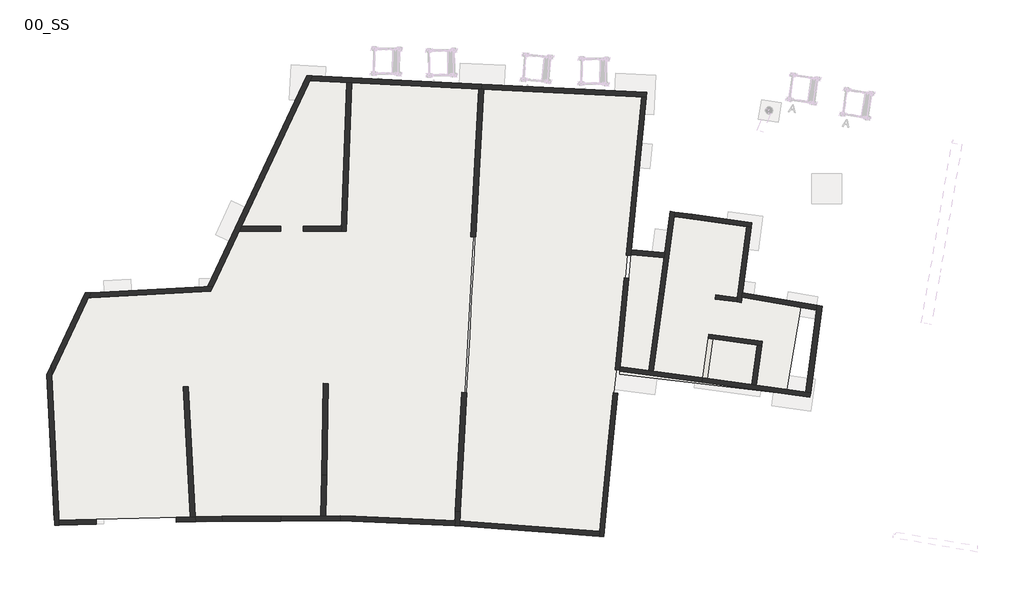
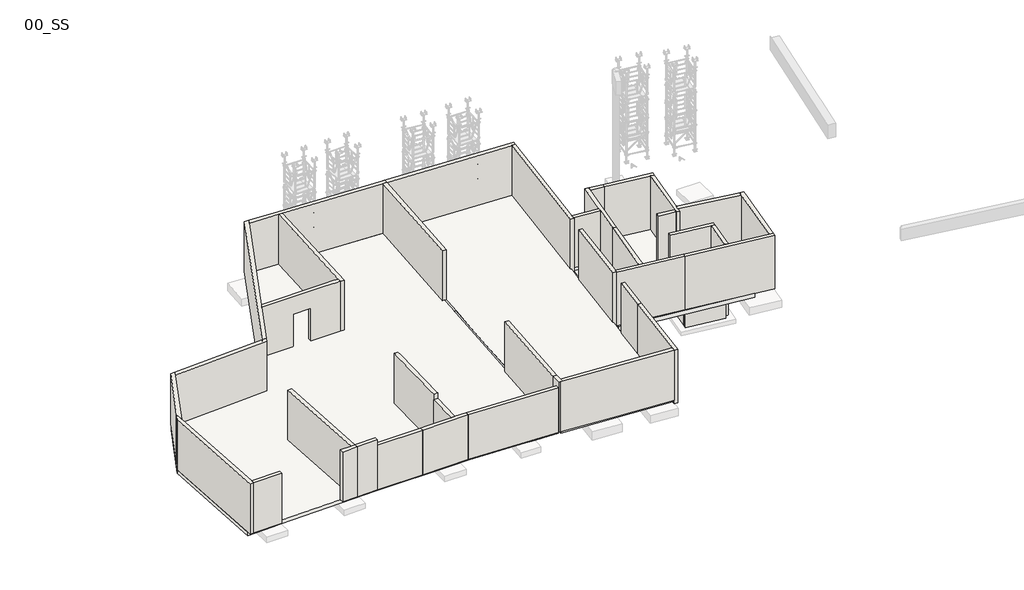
# One storey, part 1 of 4: 40 walls, 3 slabs.
"""IFC4 building model written with IfcOpenShell, lengths in millimetres."""

from ifc_helpers import new_model, si_unit, frame, origin, place, context, project, spatial, polyline, outline, extrude, faceted_brep, element, save

model = new_model("IFC4")

# Units and contexts
model_context = context("Model", 3, world=origin())
ifc_project = project(units=[si_unit("LENGTHUNIT", "METRE", prefix="MILLI")], contexts=[model_context])

# Site, building, storey
site = spatial("IfcSite", under=ifc_project)
building = spatial("IfcBuilding", under=site)
storey = spatial("IfcBuildingStorey", under=building, Name="00_SS", Elevation=18790.0)

# Slabs
placement = place(None, origin())
element("IfcSlab", 1, ObjectType="Dalle Béton - 20 cm", at=placement, inside=storey, context=model_context, shape_type="Brep", body=[
    faceted_brep([(-5672.0308886, -552.4064815, 18790.0), (-5841.8167558, -552.7778113, 18790.0), (-6522.6418252, -554.2668084, 18790.0), (-10539.0252115, -563.0508312, 18790.0), (-15638.0247058, -681.607683, 18790.0), (-15780.8485835, -684.9610185, 18790.0), (-15980.9454459, -689.6590559, 18790.0), (-17329.5895331, -721.3236223, 18790.0), (-17638.8270269, 5113.9845191, 18790.0), (-16179.2404082, 8195.1063742, 18790.0), (-12346.5079843, 8400.1067203, 18790.0), (-12146.793455, 8410.7887985, 18790.0), (-11030.9649878, 8470.4708208, 18790.0), (-7071.8244691, 16921.4398015, 18790.0), (-175.5431156, 16584.4902059, 18790.0), (-488.0212218, 10960.4246848, 18790.0), (-504.6637613, 10660.8877544, 18790.0), (-560.139158, 9662.4265515, 18790.0), (-867.3943889, 4132.363753, 18790.0), (-871.0176728, 4067.1509091, 18790.0), (-897.5693512, 3589.2666148, 18790.0), (-1138.5952504, -748.7827485, 18790.0), (-2492.2595701, -690.1456426, 18790.0), (-2807.1717646, -676.5044913, 18790.0), (-5672.0308886, -552.4064815, 18990.0), (-1138.5952504, -748.7827485, 18990.0), (-897.5693512, 3589.2666148, 18990.0), (-871.0176728, 4067.1509091, 18990.0), (-867.3943889, 4132.363753, 18990.0), (-560.139158, 9662.4265515, 18990.0), (-488.0212218, 10960.4246848, 18990.0), (-175.5431156, 16584.4902059, 18990.0), (-7071.8244691, 16921.4398015, 18990.0), (-11030.9649878, 8470.4708208, 18990.0), (-16179.2404082, 8195.1063742, 18990.0), (-17638.8270269, 5113.9845191, 18990.0), (-17329.5895331, -721.3236223, 18990.0), (-15638.0247058, -681.607683, 18990.0), (-10539.0252115, -563.0508312, 18990.0), (-6522.6418252, -554.2668084, 18990.0), (-5841.8167558, -552.7778113, 18990.0)], [[[0, 1, 2, 3, 4, 5, 6, 7, 8, 9, 10, 11, 12, 13, 14, 15, 16, 17, 18, 19, 20, 21, 22, 23]], [[24, 25, 26, 27, 28, 29, 30, 31, 32, 33, 34, 35, 36, 37, 38, 39, 40]], [[3, 2, 1, 0, 24, 40, 39, 38]], [[12, 11, 10, 9, 34, 33]], [[13, 12, 33, 32]], [[14, 13, 32, 31]], [[0, 23, 22, 21, 25, 24]], [[4, 3, 38, 37]], [[7, 6, 5, 4, 37, 36]], [[21, 20, 19, 18, 17, 16, 15, 14, 31, 30, 29, 28, 27, 26, 25]], [[8, 7, 36, 35]], [[9, 8, 35, 34]]]),
])
element("IfcSlab", 2, ObjectType="Dalle Béton - 20 cm", at=placement, inside=storey, context=model_context, shape_type="Brep", body=[
    faceted_brep([(-86.6149126, 16619.9125624, 18790.0), (6264.8089536, 16311.9173018, 18790.0), (6293.3502984, 16310.5332659, 18790.0), (5697.0231221, 10165.7705491, 18790.0), (5672.8722655, 9916.9117201, 18790.0), (5584.190578, 9003.1047551, 18790.0), (5225.3876192, 5305.8742222, 18790.0), (5222.7566161, 5278.7634508, 18790.0), (5222.7341448, 5278.5318987, 18790.0), (5136.7059317, 4392.0672572, 18790.0), (4626.1911294, -868.4548994, 18790.0), (4593.7649519, -1202.5855146, 18790.0), (4563.9952454, -1200.4381247, 18790.0), (4553.0136211, -1199.6459829, 18790.0), (1694.994376, -993.4873638, 18790.0), (-1057.7318571, -794.9238867, 18790.0), (-1055.4812273, -754.7337892, 18790.0), (-820.5359386, 3440.7470021, 18790.0), (-782.8980776, 4112.8563416, 18790.0), (-638.6403533, 6688.9050649, 18790.0), (-558.7857365, 8167.2410971, 18790.0), (-475.5278851, 9657.7001198, 18790.0), (-419.7542084, 10656.1450511, 18790.0), (-403.0222135, 10955.676594, 18790.0), (-86.6149126, 16619.9125624, 18990.0), (-403.0222135, 10955.676594, 18990.0), (-475.5278851, 9657.7001198, 18990.0), (-558.7857365, 8167.2410971, 18990.0), (-638.6403533, 6688.9050649, 18990.0), (-782.8980776, 4112.8563416, 18990.0), (-820.5359386, 3440.7470021, 18990.0), (-1055.4812273, -754.7337892, 18990.0), (-1057.7318571, -794.9238867, 18990.0), (1694.994376, -993.4873638, 18990.0), (4553.0136211, -1199.6459829, 18990.0), (4563.9952454, -1200.4381247, 18990.0), (4593.7649519, -1202.5855146, 18990.0), (4626.1911294, -868.4548994, 18990.0), (5136.7059317, 4392.0672572, 18990.0), (5222.7341448, 5278.5318987, 18990.0), (5222.7566161, 5278.7634508, 18990.0), (5225.3876192, 5305.8742222, 18990.0), (5584.190578, 9003.1047551, 18990.0), (5672.8722655, 9916.9117201, 18990.0), (5697.0231221, 10165.7705491, 18990.0), (6293.3502984, 16310.5332659, 18990.0), (6264.8089536, 16311.9173018, 18990.0)], [[[0, 1, 2, 3, 4, 5, 6, 7, 8, 9, 10, 11, 12, 13, 14, 15, 16, 17, 18, 19, 20, 21, 22, 23]], [[24, 25, 26, 27, 28, 29, 30, 31, 32, 33, 34, 35, 36, 37, 38, 39, 40, 41, 42, 43, 44, 45, 46]], [[2, 1, 0, 24, 46, 45]], [[10, 9, 8, 7, 6, 5, 4, 3, 2, 45, 44, 43, 42, 41, 40, 39, 38, 37]], [[11, 10, 37, 36]], [[15, 14, 13, 12, 11, 36, 35, 34, 33, 32]], [[19, 18, 17, 16, 15, 32, 31, 30, 29, 28]], [[20, 19, 28, 27]], [[0, 23, 22, 21, 20, 27, 26, 25, 24]]]),
])
element("IfcSlab", 3, ObjectType="Dalle Béton - 20 cm", at=placement, inside=storey, context=model_context, shape_type="Brep", body=[
    faceted_brep([(7347.1921117, 9833.9273444, 18590.0), (7402.6386996, 10236.9271126, 18590.0), (7570.7251909, 11458.6220734, 18590.0), (7602.4333388, 11454.3041708, 18590.0), (10443.6439656, 11067.3982322, 18590.0), (10483.838842, 11061.9246371, 18590.0), (10321.352792, 9880.9350948, 18590.0), (10225.9310796, 9187.3860522, 18590.0), (10102.1969994, 8288.0555876, 18590.0), (10310.4203579, 8252.6971075, 18590.0), (12645.7847462, 7856.1280773, 18590.0), (12639.2343232, 7817.5531422, 18590.0), (12081.1413089, 4530.9864867, 18590.0), (12050.9905985, 4353.431282, 18590.0), (12049.7917475, 4346.3713414, 18590.0), (5370.7858922, 5147.6674274, 18590.0), (5381.9879274, 5263.0970963, 18590.0), (5491.1098136, 6387.5269803, 18590.0), (5331.8579736, 6402.9818, 18590.0), (5505.1320116, 8174.5280477, 18590.0), (5665.1320116, 8174.5280477, 18590.0), (5842.9571071, 9981.9251134, 18590.0), (5946.0183786, 9971.785183, 18590.0), (7131.0522929, 9855.1927789, 18590.0), (7250.8369038, 9843.4074827, 18590.0), (7347.1921117, 9833.9273444, 18790.0), (7340.4693549, 9834.588779, 18790.0), (7250.8369038, 9843.4074827, 18790.0), (7161.2044527, 9852.2261864, 18790.0), (7131.0522929, 9855.1927789, 18790.0), (5946.0183786, 9971.785183, 18790.0), (5842.9571071, 9981.9251134, 18790.0), (5665.1320116, 8174.5280477, 18790.0), (5654.9755338, 8174.5280477, 18790.0), (5505.1320116, 8174.5280477, 18790.0), (5331.8579736, 6402.9818, 18790.0), (5481.5808953, 6388.4517276, 18790.0), (5491.1098136, 6387.5269803, 18790.0), (5399.1237293, 5439.6703611, 18790.0), (5381.9879274, 5263.0970963, 18790.0), (5370.7858922, 5147.6674274, 18790.0), (12049.7917475, 4346.3713414, 18790.0), (12050.9905985, 4353.431282, 18790.0), (12081.1413089, 4530.9864867, 18790.0), (12639.2343232, 7817.5531422, 18790.0), (12645.7847462, 7856.1280773, 18790.0), (10310.4203579, 8252.6971075, 18790.0), (10275.7132507, 8258.5907333, 18790.0), (10102.1969994, 8288.0555876, 18790.0), (10225.9310796, 9187.3860522, 18790.0), (10321.352792, 9880.9350948, 18790.0), (10483.838842, 11061.9246371, 18790.0), (10475.957724, 11062.9978597, 18790.0), (10443.6439656, 11067.3982322, 18790.0), (7602.4333388, 11454.3041708, 18790.0), (7570.7251909, 11458.6220734, 18790.0), (7402.6386996, 10236.9271126, 18790.0)], [[[0, 1, 2, 3, 4, 5, 6, 7, 8, 9, 10, 11, 12, 13, 14, 15, 16, 17, 18, 19, 20, 21, 22, 23, 24]], [[25, 26, 27, 28, 29, 30, 31, 32, 33, 34, 35, 36, 37, 38, 39, 40, 41, 42, 43, 44, 45, 46, 47, 48, 49, 50, 51, 52, 53, 54, 55, 56]], [[2, 1, 0, 25, 56, 55]], [[5, 4, 3, 2, 55, 54, 53, 52, 51]], [[8, 7, 6, 5, 51, 50, 49, 48]], [[10, 9, 8, 48, 47, 46, 45]], [[14, 13, 12, 11, 10, 45, 44, 43, 42, 41]], [[15, 14, 41, 40]], [[17, 16, 15, 40, 39, 38, 37]], [[18, 17, 37, 36, 35]], [[19, 18, 35, 34]], [[20, 19, 34, 33, 32]], [[21, 20, 32, 31]], [[0, 24, 23, 22, 21, 31, 30, 29, 28, 27, 26, 25]]]),
])

# Walls
element("IfcWall", 4, ObjectType="premur 20", at=placement, inside=storey, context=model_context, shape_type="Brep", body=[
    faceted_brep([(-17118.9691928, -916.433624, 18990.0), (-17129.5577792, -716.6271136, 18990.0), (-17436.4309501, 5074.066281, 18990.0), (-17458.6972156, 5494.2304677, 18990.0), (-17458.6972156, 5494.2304677, 21740.0), (-17436.4309501, 5074.066281, 21740.0), (-17129.5577792, -716.6271136, 21740.0), (-17118.9691928, -916.433624, 21740.0), (-17319.0009467, -921.1301327, 18990.0), (-17319.0009467, -921.1301327, 21740.0), (-17638.8270269, 5113.9845191, 21740.0), (-17638.8270269, 5113.9845191, 18990.0)], [[[0, 1, 2, 3, 4, 5, 6, 7]], [[8, 9, 10, 11]], [[3, 2, 1, 0, 8, 11]], [[7, 6, 5, 4, 10, 9]], [[4, 3, 11, 10]], [[0, 7, 9, 8]]]),
])
element("IfcWall", 5, ObjectType="Int. Parpaing 200 mm", at=placement, inside=storey, context=model_context, shape_type="Brep", body=[
    faceted_brep([(-5803.4508744, 10887.6283744, 21740.0), (-6021.1717674, 10887.6283744, 21740.0), (-6621.274048, 10887.6283744, 21740.0), (-9903.3407521, 10887.6283744, 21740.0), (-9903.3407521, 10887.6283744, 18790.0), (-8241.9847964, 10887.6283744, 18790.0), (-8241.9847964, 10887.6283744, 20790.0), (-7341.9847964, 10887.6283744, 20790.0), (-7341.9847964, 10887.6283744, 18790.0), (-5803.4508744, 10887.6283744, 18790.0), (-9809.4857712, 11087.6283744, 21740.0), (-6617.581005, 11087.6283744, 21740.0), (-6017.4787245, 11087.6283744, 21740.0), (-5796.0111481, 11087.6283744, 21740.0), (-5796.0111481, 11087.6283744, 18790.0), (-7341.9847964, 11087.6283744, 18790.0), (-7341.9847964, 11087.6283744, 20790.0), (-8241.9847964, 11087.6283744, 20790.0), (-8241.9847964, 11087.6283744, 18790.0), (-9809.4857712, 11087.6283744, 18790.0)], [[[0, 1, 2, 3, 4, 5, 6, 7, 8, 9]], [[10, 11, 12, 13, 14, 15, 16, 17, 18, 19]], [[4, 19, 18, 5]], [[14, 9, 8, 15]], [[3, 2, 1, 0, 13, 12, 11, 10]], [[4, 3, 10, 19]], [[17, 6, 5, 18]], [[6, 17, 16, 7]], [[7, 16, 15, 8]], [[0, 9, 14, 13]]]),
])
element("IfcWall", 6, ObjectType="Int. Parpaing 200 mm", at=placement, inside=storey, context=model_context, shape_type="Brep", body=[
    faceted_brep([(-5603.5891048, 10880.1937901, 18790.0), (-5385.6540881, 16738.8775356, 18790.0), (-5382.0144448, 16836.7210089, 18790.0), (-5382.0144448, 16836.7210089, 21740.0), (-5603.5891048, 10880.1937901, 21740.0), (-5803.4508744, 10887.6283744, 18790.0), (-5803.4508744, 10887.6283744, 21740.0), (-5796.0111481, 11087.6283744, 21740.0), (-5581.7926663, 16846.4015922, 21740.0), (-5581.7926663, 16846.4015922, 18790.0), (-5585.4293205, 16748.6384749, 18790.0), (-5792.291285, 11187.6283744, 18790.0), (-5796.0111481, 11087.6283744, 18790.0)], [[[0, 1, 2, 3, 4]], [[5, 6, 7, 8, 9, 10, 11, 12]], [[2, 1, 0, 5, 12, 11, 10, 9]], [[4, 3, 8, 7, 6]], [[0, 4, 6, 5]], [[3, 2, 9, 8]]]),
])
element("IfcWall", 7, ObjectType="Voile BA 18", at=placement, inside=storey, context=model_context, shape_type="Brep", body=[
    faceted_brep([(6260.2982009, 16272.5735419, 18790.0), (5643.5584676, 9919.7575422, 18790.0), (5643.5584676, 9919.7575422, 20840.0), (5643.5584676, 9919.7575422, 21510.0), (5643.5584676, 9919.7575422, 21740.0), (6260.2982009, 16272.5735419, 21740.0), (6440.2976821, 16263.8513701, 18790.0), (6440.2976821, 16263.8513701, 18990.0), (6440.2976821, 16263.8513701, 21730.3487353), (6440.2976821, 16263.8513701, 21740.0), (5845.9190057, 10141.3686416, 21740.0), (5826.5935818, 9942.3043431, 21740.0), (5822.8896161, 9904.1511135, 21740.0), (5822.7161863, 9902.3646752, 21740.0), (5822.7161863, 9902.3646752, 20840.0), (5822.7161863, 9902.3646752, 18990.0), (5822.7161863, 9902.3646752, 18790.0), (5846.8605209, 10151.066854, 18790.0), (5672.8722655, 9916.9117201, 18790.0)], [[[0, 1, 2, 3, 4, 5]], [[6, 7, 8, 9, 10, 11, 12, 13, 14, 15, 16, 17]], [[1, 0, 6, 17, 16, 18]], [[4, 3, 2, 1, 18, 16, 15, 14, 13]], [[5, 4, 13, 12, 11, 10, 9]], [[0, 5, 9, 8, 7, 6]]]),
])
element("IfcWall", 8, ObjectType="Voile BA 18", at=placement, inside=storey, context=model_context, shape_type="SweptSolid", body=[
    extrude(outline(polyline([(8257.9363187, 11374.4408472), (7564.4125673, 11469.4398273), (7588.840993, 11647.7744903), (8282.3646279, 11552.7755262), (8257.9363187, 11374.4408472)])), frame((0.0, 0.0, 18790.0), z_axis=(0.0, 0.0, 1.0), x_axis=(1.0, 0.0, 0.0)), (0.0, 0.0, 1.0), 2950.0),
])
element("IfcWall", 9, ObjectType="Voile BA 18", at=placement, inside=storey, context=model_context, shape_type="Brep", body=[
    faceted_brep([(10476.9761643, 11070.4764599, 18790.0), (10064.241759, 8039.6895627, 18790.0), (10064.241759, 8039.6895627, 21740.0), (10476.9761643, 11070.4764599, 21740.0), (10655.3108982, 11046.0481432, 18790.0), (10655.3108982, 11046.0481432, 21740.0), (10297.4078713, 8417.898441, 21740.0), (10270.4063315, 8219.6210211, 21740.0), (10242.5944936, 8015.3934284, 21740.0), (10242.5944936, 8015.3934284, 18990.0), (10242.5944936, 8015.3934284, 18790.0)], [[[0, 1, 2, 3]], [[4, 5, 6, 7, 8, 9, 10]], [[1, 0, 4, 10]], [[3, 2, 8, 7, 6, 5]], [[0, 3, 5, 4]], [[2, 1, 10, 9, 8]]]),
])
element("IfcWall", 10, ObjectType="Voile BA 18", at=placement, inside=storey, context=model_context, shape_type="Brep", body=[
    faceted_brep([(10088.5300878, 8218.0433604, 18790.0), (10066.4723317, 8221.0481823, 18790.0), (9232.7110596, 8334.6274657, 18790.0), (9232.7110596, 8334.6274657, 18990.0), (9232.7110596, 8334.6274657, 21740.0), (10088.5300878, 8218.0433604, 21740.0), (10088.5300878, 8218.0433604, 18990.0), (10064.241759, 8039.6895627, 18790.0), (10064.241759, 8039.6895627, 21740.0), (9208.4149254, 8156.2747313, 21740.0), (9208.4149254, 8156.2747313, 18990.0), (9208.4149254, 8156.2747313, 18790.0)], [[[0, 1, 2, 3, 4, 5, 6]], [[7, 8, 9, 10, 11]], [[2, 1, 0, 7, 11]], [[4, 3, 2, 11, 10, 9]], [[5, 4, 9, 8]], [[0, 6, 5, 8, 7]]]),
])
element("IfcWall", 11, ObjectType="Voile BA 18", at=placement, inside=storey, context=model_context, shape_type="Brep", body=[
    faceted_brep([(8927.6739062, 6573.7650939, 17790.0), (10889.5544142, 6306.5101144, 17790.0), (11067.9071797, 6282.2142083, 17790.0), (11067.9071797, 6282.2142083, 21740.0), (10889.5544142, 6306.5101144, 21740.0), (8927.6739062, 6573.7650939, 21740.0), (8951.9698123, 6752.1178594, 17790.0), (8951.9698123, 6752.1178594, 21740.0), (11092.2030898, 6460.5669732, 21740.0), (11092.2030898, 6460.5669732, 17790.0)], [[[0, 1, 2, 3, 4, 5]], [[6, 7, 8, 9]], [[2, 1, 0, 6, 9]], [[5, 4, 3, 8, 7]], [[3, 2, 9, 8]], [[0, 5, 7, 6]]]),
])
element("IfcWall", 12, ObjectType="Voile BA 18", at=placement, inside=storey, context=model_context, shape_type="SweptSolid", body=[
    extrude(outline(polyline([(10673.8014742, 4722.6989585), (10889.5544142, 6306.5101144), (11067.9071797, 6282.2142083), (10852.1542536, 4698.4031549), (10673.8014742, 4722.6989585)])), frame((0.0, 0.0, 17790.0), z_axis=(0.0, 0.0, 1.0), x_axis=(1.0, 0.0, 0.0)), (0.0, 0.0, 1.0), 3950.0),
])
element("IfcWall", 13, ObjectType="Voile BA 18", at=placement, inside=storey, context=model_context, shape_type="Brep", body=[
    faceted_brep([(13032.021542, 4401.4544466, 18790.0), (8709.9100369, 4990.2267243, 18790.0), (8709.9100369, 4990.2267243, 21740.0), (12833.8517871, 4428.4497839, 21740.0), (13032.021542, 4401.4544466, 21740.0), (13032.021542, 4401.4544466, 18990.0), (13007.7257385, 4223.1016672, 18790.0), (13007.7257385, 4223.1016672, 21740.0), (12204.1788169, 4332.5634778, 21740.0), (12005.9710873, 4359.5639882, 21740.0), (8900.8346114, 4782.5559155, 21740.0), (8702.645377, 4809.5539064, 21740.0), (8685.6142334, 4811.8739449, 21740.0), (8685.6142334, 4811.8739449, 18790.0)], [[[0, 1, 2, 3, 4, 5]], [[6, 7, 8, 9, 10, 11, 12, 13]], [[1, 0, 6, 13]], [[2, 1, 13, 12]], [[4, 3, 2, 12, 11, 10, 9, 8, 7]], [[0, 5, 4, 7, 6]]]),
])
element("IfcWall", 14, ObjectType="Voile BA 18", at=placement, inside=storey, context=model_context, shape_type="SweptSolid", body=[
    extrude(outline(polyline([(4935.2049714, 2623.260851), (5107.2011005, 4394.931625), (5286.3588192, 4377.538758), (5114.3626901, 2605.867984), (4935.2049714, 2623.260851)])), frame((0.0, 0.0, 18790.0), z_axis=(0.0, 0.0, 1.0), x_axis=(1.0, 0.0, 0.0)), (0.0, 0.0, 1.0), 2950.0),
])
element("IfcWall", 15, ObjectType="Voile BA 18", at=placement, inside=storey, context=model_context, shape_type="Brep", body=[
    faceted_brep([(5554.8451832, 9005.9536446, 18790.0), (5195.9143848, 5308.7355226, 18790.0), (5195.9143848, 5308.7355226, 21740.0), (5554.8451832, 9005.9536446, 21740.0), (5734.0029019, 8988.5607776, 18790.0), (5734.0029019, 8988.5607776, 18990.0), (5734.0029019, 8988.5607776, 21740.0), (5375.0721036, 5291.3426556, 21740.0), (5375.0721036, 5291.3426556, 20910.0), (5375.0721036, 5291.3426556, 18990.0), (5375.0721036, 5291.3426556, 18790.0), (5481.5808953, 6388.4517276, 18790.0), (5654.9755338, 8174.5280477, 18790.0), (5584.190578, 9003.1047551, 18790.0), (5225.3876192, 5305.8742222, 18790.0), (5196.9885367, 5308.6312425, 21740.0)], [[[0, 1, 2, 3]], [[4, 5, 6, 7, 8, 9, 10, 11, 12]], [[1, 0, 13, 4, 12, 11, 10, 14]], [[2, 1, 14, 10, 9, 8, 7, 15]], [[3, 2, 15, 7, 6]], [[0, 3, 6, 5, 4, 13]]]),
])
element("IfcWall", 16, ObjectType="Voile BA 18", at=placement, inside=storey, context=model_context, shape_type="Brep", body=[
    faceted_brep([(8684.6069428, 4992.1110067, 18790.0), (5399.1237293, 5439.6703611, 18790.0), (5397.5233486, 5439.8883703, 18790.0), (5397.5233486, 5439.8883703, 18990.0), (5397.5233486, 5439.8883703, 21740.0), (8684.6069428, 4992.1110067, 21740.0), (8660.3111393, 4813.7582273, 18790.0), (8660.3111393, 4813.7582273, 21740.0), (5373.227545, 5261.5355908, 21740.0), (5373.227545, 5261.5355908, 18990.0), (5373.227545, 5261.5355908, 18790.0), (5381.109656, 5260.4618637, 18790.0), (5373.5483598, 5263.8906564, 18790.0)], [[[0, 1, 2, 3, 4, 5]], [[6, 7, 8, 9, 10, 11]], [[2, 1, 0, 6, 11, 10, 12]], [[4, 3, 2, 12, 10, 9, 8]], [[5, 4, 8, 7]], [[0, 5, 7, 6]]]),
])
element("IfcWall", 17, ObjectType="Voile BA 18", at=placement, inside=storey, context=model_context, shape_type="SweptSolid", body=[
    extrude(outline(polyline([(7137.3237804, 8351.56658), (6713.9159012, 5260.5650371), (6535.5630725, 5284.8608474), (6958.9891174, 8375.9950056), (7137.3237804, 8351.56658)])), frame((0.0, 0.0, 18790.0), z_axis=(0.0, 0.0, 1.0), x_axis=(1.0, 0.0, 0.0)), (0.0, 0.0, 1.0), 2950.0),
])
element("IfcWall", 18, ObjectType="Voile BA 18", at=placement, inside=storey, context=model_context, shape_type="Brep", body=[
    faceted_brep([(10673.81611, 4722.8063982, 17790.0), (8890.2882626, 4965.7644413, 17790.0), (8711.9354831, 4990.0602449, 17790.0), (8709.9246727, 4990.3341641, 17790.0), (8709.9246727, 4990.3341641, 18790.0), (8711.9354831, 4990.0602449, 18790.0), (8890.2882626, 4965.7644413, 18790.0), (10673.81611, 4722.8063982, 18790.0), (10649.5202, 4544.4536333, 17790.0), (10649.5202, 4544.4536333, 18790.0), (8685.6288692, 4811.9813847, 18790.0), (8685.6288692, 4811.9813847, 17790.0)], [[[0, 1, 2, 3, 4, 5, 6, 7]], [[8, 9, 10, 11]], [[3, 2, 1, 0, 8, 11]], [[4, 3, 11, 10]], [[7, 6, 5, 4, 10, 9]], [[0, 7, 9, 8]]]),
])
element("IfcWall", 19, ObjectType="Voile BA 18", at=placement, inside=storey, context=model_context, shape_type="SweptSolid", body=[
    extrude(outline(polyline([(9106.0266716, 6549.4691878), (8890.2882626, 4965.7644413), (8711.9354831, 4990.0602449), (8927.6739062, 6573.7650939), (9106.0266716, 6549.4691878)])), frame((0.0, 0.0, 17790.0), z_axis=(0.0, 0.0, 1.0), x_axis=(1.0, 0.0, 0.0)), (0.0, 0.0, 1.0), 1000.0),
])
element("IfcWall", 20, ObjectType="Voile BA 18", at=placement, inside=storey, context=model_context, shape_type="SweptSolid", body=[
    extrude(outline(polyline([(10655.3108982, 11046.0481432), (8257.9363187, 11374.4408472), (8282.3646279, 11552.7755262), (10679.5992344, 11224.4019957), (10655.3108982, 11046.0481432)])), frame((0.0, 0.0, 18790.0), z_axis=(0.0, 0.0, 1.0), x_axis=(1.0, 0.0, 0.0)), (0.0, 0.0, 1.0), 2950.0),
])
element("IfcWall", 21, ObjectType="Voile BA 18", at=placement, inside=storey, context=model_context, shape_type="Brep", body=[
    faceted_brep([(7137.3237804, 8351.56658, 18790.0), (7300.6881572, 9544.1743834, 18790.0), (7395.6979455, 10237.7736679, 18790.0), (7564.4125673, 11469.4398273, 18790.0), (7588.840993, 11647.7744903, 18790.0), (7588.840993, 11647.7744903, 21740.0), (7564.4125673, 11469.4398273, 21740.0), (7137.3237804, 8351.56658, 21740.0), (7137.3237804, 8351.56658, 18990.0), (6958.9891174, 8375.9950056, 18790.0), (6958.9891174, 8375.9950056, 18990.0), (6958.9891174, 8375.9950056, 21740.0), (7155.631738, 9811.5437363, 21740.0), (7182.7941059, 10009.8369783, 21740.0), (7410.506314, 11672.2027995, 21740.0), (7410.506314, 11672.2027995, 18990.0), (7410.506314, 11672.2027995, 18790.0), (7161.2044527, 9852.2261864, 18790.0)], [[[0, 1, 2, 3, 4, 5, 6, 7, 8]], [[9, 10, 11, 12, 13, 14, 15, 16, 17]], [[4, 3, 2, 1, 0, 9, 17, 16]], [[7, 6, 5, 14, 13, 12, 11]], [[0, 8, 7, 11, 10, 9]], [[5, 4, 16, 15, 14]]]),
])
element("IfcWall", 22, ObjectType="Voile BA 18", at=placement, inside=storey, context=model_context, shape_type="Brep", body=[
    faceted_brep([(4935.2049714, 2623.260851, 18790.0), (4548.5537648, -1359.4953077, 18790.0), (4548.5537648, -1359.4953077, 18990.0), (4548.5537648, -1359.4953077, 21740.0), (4567.8851225, -1160.3698882, 21740.0), (4935.2049714, 2623.260851, 21740.0), (5114.3626901, 2605.867984, 18790.0), (5114.3626901, 2605.867984, 21740.0), (4728.1431115, -1372.4421293, 21740.0), (4728.1431115, -1372.4421293, 18790.0)], [[[0, 1, 2, 3, 4, 5]], [[6, 7, 8, 9]], [[1, 0, 6, 9]], [[5, 4, 3, 8, 7]], [[0, 5, 7, 6]], [[3, 2, 1, 9, 8]]]),
])
element("IfcWall", 23, ObjectType="Voile BA 20", at=placement, inside=storey, context=model_context, shape_type="SweptSolid", body=[
    extrude(outline(polyline([(-15854.8353502, 8412.7436206), (-17436.4309501, 5074.066281), (-17458.6972156, 5494.2304677), (-16081.8946217, 8400.5989613), (-15854.8353502, 8412.7436206)])), frame((0.0, 0.0, 18990.0), z_axis=(0.0, 0.0, 1.0), x_axis=(1.0, 0.0, 0.0)), (0.0, 0.0, 1.0), 2750.0),
])
element("IfcWall", 24, ObjectType="Voile BA 20", at=placement, inside=storey, context=model_context, shape_type="Brep", body=[
    faceted_brep([(-15952.1811368, 8207.2510334, 18990.0), (-11037.8243016, 8470.1039385, 18990.0), (-11037.8243016, 8470.1039385, 21740.0), (-15952.1811368, 8207.2510334, 21740.0), (-15854.8353502, 8412.7436206, 18990.0), (-15854.8353502, 8412.7436206, 21740.0), (-11168.0303762, 8663.4255194, 21740.0), (-10941.4153007, 8675.54642, 21740.0), (-10941.4153007, 8675.54642, 18990.0), (-11168.0303762, 8663.4255194, 18990.0)], [[[0, 1, 2, 3]], [[4, 5, 6, 7, 8, 9]], [[1, 0, 4, 9, 8]], [[3, 2, 7, 6, 5]], [[0, 3, 5, 4]], [[2, 1, 8, 7]]]),
])
element("IfcWall", 25, ObjectType="Voile BA 20", at=placement, inside=storey, context=model_context, shape_type="Brep", body=[
    faceted_brep([(-10941.4153007, 8675.54642, 18990.0), (-7073.1258617, 16918.6666026, 18990.0), (-6981.2499684, 17114.4492717, 18990.0), (-6981.2499684, 17114.4492717, 21740.0), (-7073.1258617, 16918.6666026, 21740.0), (-9809.4857712, 11087.6283744, 21740.0), (-9903.3407521, 10887.6283744, 21740.0), (-10941.4153007, 8675.54642, 21740.0), (-11168.0303762, 8663.4255194, 18990.0), (-11168.0303762, 8663.4255194, 21740.0), (-7197.2649392, 17124.9166335, 21740.0), (-7197.2649392, 17124.9166335, 18990.0)], [[[0, 1, 2, 3, 4, 5, 6, 7]], [[8, 9, 10, 11]], [[2, 1, 0, 8, 11]], [[7, 6, 5, 4, 3, 10, 9]], [[0, 7, 9, 8]], [[3, 2, 11, 10]]]),
])
element("IfcWall", 26, ObjectType="Voile BA 20", at=placement, inside=storey, context=model_context, shape_type="Brep", body=[
    faceted_brep([(-7073.1258617, 16918.6666026, 18990.0), (-284.2215717, 16589.6990448, 18990.0), (-183.5989809, 16584.8232111, 18990.0), (-183.5989809, 16584.8232111, 21730.3487353), (-84.4505247, 16580.0188091, 21730.3487353), (-84.4505247, 16580.0188091, 21740.0), (-284.2215717, 16589.6990448, 21740.0), (-5382.0144448, 16836.7210089, 21740.0), (-5581.7926663, 16846.4015922, 21740.0), (-7073.1258617, 16918.6666026, 21740.0), (-6981.2499684, 17114.4492717, 18990.0), (-6981.2499684, 17114.4492717, 21740.0), (-5474.4685018, 17041.4356898, 21740.0), (-165.6099002, 16784.1861876, 21740.0), (-73.296418, 16779.7129855, 21740.0), (-73.296418, 16779.7129855, 21730.3487353), (-173.9190088, 16784.5888191, 21730.3487353), (-173.9190088, 16784.5888191, 18990.0)], [[[0, 1, 2, 3, 4, 5, 6, 7, 8, 9]], [[10, 11, 12, 13, 14, 15, 16, 17]], [[2, 1, 0, 10, 17]], [[9, 8, 7, 6, 5, 14, 13, 12, 11]], [[0, 9, 11, 10]], [[3, 2, 17, 16]], [[15, 4, 3, 16]], [[5, 4, 15, 14]]]),
])
element("IfcWall", 27, ObjectType="Voile BA 20", at=placement, inside=storey, context=model_context, shape_type="Brep", body=[
    faceted_brep([(-8233.3559972, -554.6057508, 18990.0), (-10597.6412094, -563.2655267, 18990.0), (-10597.6412094, -563.2655267, 21440.0), (-10439.8183823, -562.6874618, 21440.0), (-8233.3559972, -554.6057508, 21440.0), (-8232.6234529, -754.6044092, 18990.0), (-8232.6234529, -754.6044092, 21440.0), (-10594.9274362, -763.2569284, 21440.0), (-10594.9274362, -763.2569284, 18990.0), (-10596.0129455, -683.2603677, 21440.0)], [[[0, 1, 2, 3, 4]], [[5, 6, 7, 8]], [[1, 0, 5, 8]], [[4, 3, 2, 9, 7, 6]], [[0, 4, 6, 5]], [[2, 1, 8, 7, 9]]]),
])
element("IfcWall", 28, ObjectType="Voile BA 20", at=placement, inside=storey, context=model_context, shape_type="SweptSolid", body=[
    extrude(outline(polyline([(7155.631738, 9811.5437363), (5826.5935818, 9942.3043431), (5845.9190057, 10141.3686416), (7182.7941059, 10009.8369783), (7155.631738, 9811.5437363)])), frame((0.0, 0.0, 18990.0), z_axis=(0.0, 0.0, 1.0), x_axis=(1.0, 0.0, 0.0)), (0.0, 0.0, 1.0), 2750.0),
])
element("IfcWall", 29, ObjectType="Voile BA 20", at=placement, inside=storey, context=model_context, shape_type="SweptSolid", body=[
    extrude(outline(polyline([(-17129.5577792, -716.6271136), (-15643.9394653, -681.7465545), (-15639.2449959, -881.6914518), (-17118.9691928, -916.433624), (-17129.5577792, -716.6271136)])), frame((0.0, 0.0, 18990.0), z_axis=(0.0, 0.0, 1.0), x_axis=(1.0, 0.0, 0.0)), (0.0, 0.0, 1.0), 2750.0),
])
element("IfcWall", 30, ObjectType="Voile BA 20", at=placement, inside=storey, context=model_context, shape_type="Brep", body=[
    faceted_brep([(-1045.310449, -953.0111468, 18990.0), (-1032.3654486, -389.7781382, 18990.0), (-1032.3654486, -389.7781382, 21740.0), (-1045.310449, -953.0111468, 21740.0), (-1245.1642954, -944.3540145, 18990.0), (-1245.1642954, -944.3540145, 21740.0), (-1232.2372202, -381.9009258, 21740.0), (-1232.2372202, -381.9009258, 18990.0), (-1147.26684, -948.5946696, 18990.0)], [[[0, 1, 2, 3]], [[4, 5, 6, 7]], [[1, 0, 8, 4, 7]], [[3, 2, 6, 5]], [[2, 1, 7, 6]], [[0, 3, 5, 4, 8]]]),
])
element("IfcWall", 31, ObjectType="Voile BA 20", at=placement, inside=storey, context=model_context, shape_type="Brep", body=[
    faceted_brep([(-1032.3654486, -389.7781382, 18990.0), (-765.0676382, 4395.3133159, 18990.0), (-765.0676382, 4395.3133159, 21040.0), (-765.0676382, 4395.3133159, 21540.0), (-765.0676382, 4395.3133159, 21740.0), (-1032.3654486, -389.7781382, 21740.0), (-1232.2372202, -381.9009258, 18990.0), (-1232.2372202, -381.9009258, 21740.0), (-981.4691209, 4107.2802129, 21740.0), (-964.7563265, 4406.4680346, 21740.0), (-964.7563265, 4406.4680346, 21040.0), (-964.7563265, 4406.4680346, 18990.0), (-852.616712, 4400.2038548, 21740.0)], [[[0, 1, 2, 3, 4, 5]], [[6, 7, 8, 9, 10, 11]], [[1, 0, 6, 11]], [[4, 3, 2, 1, 11, 10, 9, 12]], [[5, 4, 12, 9, 8, 7]], [[0, 5, 7, 6]]]),
])
element("IfcWall", 32, ObjectType="Voile BA 20", at=placement, inside=storey, context=model_context, shape_type="SweptSolid", body=[
    extrude(outline(polyline([(-6395.0633265, 1073.1356687), (-6424.9957439, -547.2845257), (-6625.0448231, -548.0944323), (-6595.0326132, 1076.6454066), (-6395.0633265, 1073.1356687)])), frame((0.0, 0.0, 18990.0), z_axis=(0.0, 0.0, 1.0), x_axis=(1.0, 0.0, 0.0)), (0.0, 0.0, 1.0), 2450.0),
])
element("IfcWall", 33, ObjectType="Voile BA 20", at=placement, inside=storey, context=model_context, shape_type="SweptSolid", body=[
    extrude(outline(polyline([(-11943.0827926, 4645.3370194), (-11665.4605325, -588.3366599), (-11865.492588, -593.0331699), (-12142.8020037, 4634.742836), (-11943.0827926, 4645.3370194)])), frame((0.0, 0.0, 18990.0), z_axis=(0.0, 0.0, 1.0), x_axis=(1.0, 0.0, 0.0)), (0.0, 0.0, 1.0), 2750.0),
])
element("IfcWall", 34, ObjectType="Voile BA 20", at=placement, inside=storey, context=model_context, shape_type="Brep", body=[
    faceted_brep([(-415.3478317, 10655.8989288, 18990.0), (-84.4505247, 16580.0188091, 18990.0), (-84.4505247, 16580.0188091, 21730.3487353), (-84.4505247, 16580.0188091, 21740.0), (-415.3478317, 10655.8989288, 21740.0), (-415.3478317, 10655.8989288, 21540.0), (-415.3478317, 10655.8989288, 21040.0), (-615.0365712, 10667.0527318, 18990.0), (-615.0365712, 10667.0527318, 21040.0), (-615.0365712, 10667.0527318, 21740.0), (-598.3058171, 10966.586729, 21740.0), (-284.2215717, 16589.6990448, 21740.0), (-284.2215717, 16589.6990448, 21510.0), (-284.2215717, 16589.6990448, 21240.0), (-284.2215717, 16589.6990448, 18990.0), (-183.5989809, 16584.8232111, 18990.0), (-504.8929369, 10660.9005552, 21740.0)], [[[0, 1, 2, 3, 4, 5, 6]], [[7, 8, 9, 10, 11, 12, 13, 14]], [[1, 0, 7, 14, 15]], [[4, 3, 11, 10, 9, 16]], [[0, 6, 5, 4, 16, 9, 8, 7]], [[1, 15, 14, 13, 12, 11, 3, 2]]]),
])
element("IfcWall", 35, ObjectType="Voile BA 20", at=placement, inside=storey, context=model_context, shape_type="Brep", body=[
    faceted_brep([(-6395.0633265, 1073.1356687, 18990.0), (-6333.6847266, 4763.7960936, 18990.0), (-6333.6847266, 4763.7960936, 21040.0), (-6333.6847266, 4763.7960936, 21740.0), (-6338.0920029, 4498.7890666, 21740.0), (-6393.7547232, 1151.8212438, 21740.0), (-6395.0633265, 1073.1356687, 21740.0), (-6395.0633265, 1073.1356687, 21440.0), (-6595.0326132, 1076.6454066, 18990.0), (-6595.0326132, 1076.6454066, 21440.0), (-6595.0326132, 1076.6454066, 21740.0), (-6593.7172832, 1155.7354564, 21740.0), (-6593.6686799, 1158.6579415, 21740.0), (-6538.0582514, 4502.4814863, 21740.0), (-6533.657074, 4767.1217918, 21740.0), (-6533.657074, 4767.1217918, 21040.0), (-6533.657074, 4767.1217918, 18990.0)], [[[0, 1, 2, 3, 4, 5, 6, 7]], [[8, 9, 10, 11, 12, 13, 14, 15, 16]], [[1, 0, 8, 16]], [[3, 2, 1, 16, 15, 14]], [[6, 5, 4, 3, 14, 13, 12, 11, 10]], [[0, 7, 6, 10, 9, 8]]]),
])
element("IfcWall", 36, ObjectType="Voile BA 20", at=placement, inside=storey, context=model_context, shape_type="SweptSolid", body=[
    extrude(outline(polyline([(-11665.4605325, -588.3366601), (-10597.6412094, -563.2655267), (-10594.9274362, -763.2569284), (-11654.861731, -788.1429307), (-11665.4605325, -588.3366601)])), frame((0.0, 0.0, 18990.0), z_axis=(0.0, 0.0, 1.0), x_axis=(1.0, 0.0, 0.0)), (0.0, 0.0, 1.0), 2750.0),
])
element("IfcWall", 37, ObjectType="Voile BA 20", at=placement, inside=storey, context=model_context, shape_type="Brep", body=[
    faceted_brep([(-8232.5848744, -754.6042605, 18990.0), (-5848.4507051, -744.9519995, 18990.0), (-5848.4507051, -744.9519995, 21440.0), (-8232.5848744, -754.6042605, 21440.0), (-8233.3945757, -554.6058995, 18990.0), (-8233.3945757, -554.6058995, 21440.0), (-7946.7003599, -553.4452067, 21440.0), (-6625.0448231, -548.0944323, 21440.0), (-6424.9957439, -547.2845257, 21440.0), (-5844.8812324, -544.9359093, 21440.0), (-5844.5256839, -544.9344698, 21440.0), (-5844.5256839, -544.9344698, 18990.0), (-6424.9957439, -547.2845257, 18990.0), (-6625.0448231, -548.0944323, 18990.0)], [[[0, 1, 2, 3]], [[4, 5, 6, 7, 8, 9, 10, 11, 12, 13]], [[1, 0, 4, 13, 12, 11]], [[3, 2, 10, 9, 8, 7, 6, 5]], [[0, 3, 5, 4]], [[2, 1, 11, 10]]]),
])
element("IfcWall", 38, ObjectType="Voile BA 20", at=placement, inside=storey, context=model_context, shape_type="Brep", body=[
    faceted_brep([(-5848.4507051, -744.9519995, 18990.0), (-1245.1642954, -944.3540145, 18990.0), (-1245.1642954, -944.3540145, 21440.0), (-5848.4507051, -744.9519995, 21440.0), (-5844.5256839, -544.9344698, 18990.0), (-5844.5256839, -544.9344698, 21440.0), (-1240.5678842, -744.3655676, 21440.0), (-1240.5678842, -744.3655676, 18990.0), (-5842.1605211, -545.0369223, 18990.0)], [[[0, 1, 2, 3]], [[4, 5, 6, 7, 8]], [[1, 0, 4, 8, 7]], [[3, 2, 6, 5]], [[2, 1, 7, 6]], [[0, 3, 5, 4]]]),
])
element("IfcWall", 39, ObjectType="Voile BA 20", at=placement, inside=storey, context=model_context, shape_type="Brep", body=[
    faceted_brep([(-1156.3803954, -948.219439, 18990.0), (1683.4985231, -1152.949877, 18990.0), (4548.5537648, -1359.4953077, 18990.0), (4548.5537648, -1359.4953077, 21740.0), (-1156.3803954, -948.219439, 21740.0), (-1141.9994657, -748.7371369, 18990.0), (-1141.9994657, -748.7371369, 21740.0), (4567.8851225, -1160.3698882, 21740.0), (4567.8851225, -1160.3698882, 18990.0), (4563.9952454, -1200.4381247, 18990.0), (4548.7576161, -1357.3955085, 18990.0)], [[[0, 1, 2, 3, 4]], [[5, 6, 7, 8]], [[2, 1, 0, 5, 8, 9, 10]], [[4, 3, 7, 6]], [[0, 4, 6, 5]], [[3, 2, 10, 9, 8, 7]]]),
])
element("IfcWall", 40, ObjectType="Voile BA 20", at=placement, inside=storey, context=model_context, shape_type="Brep", body=[
    faceted_brep([(-11665.4605325, -588.3366599, 18990.0), (-11865.492588, -593.0331699, 18990.0), (-12439.3603939, -606.5068896, 18990.0), (-12439.3603939, -606.5068896, 21740.0), (-11865.492588, -593.0331699, 21740.0), (-11665.4605325, -588.3366599, 21740.0), (-11654.861731, -788.1429307, 18990.0), (-11654.861731, -788.1429307, 21740.0), (-12434.6659303, -806.4517871, 21740.0), (-12434.6659303, -806.4517871, 18990.0)], [[[0, 1, 2, 3, 4, 5]], [[6, 7, 8, 9]], [[2, 1, 0, 6, 9]], [[3, 2, 9, 8]], [[5, 4, 3, 8, 7]], [[0, 5, 7, 6]]]),
])
element("IfcWall", 41, ObjectType="Voile BA 20", at=placement, inside=storey, context=model_context, shape_type="Brep", body=[
    faceted_brep([(13032.021542, 4401.4544466, 18990.0), (13504.9904525, 7873.466372, 18990.0), (13504.9904525, 7873.466372, 21240.0), (13504.9904525, 7873.466372, 21740.0), (13480.8849759, 7696.5107618, 21740.0), (13032.021542, 4401.4544466, 21740.0), (12833.8517871, 4428.4497839, 18990.0), (12833.8517871, 4428.4497839, 21740.0), (13280.6950431, 7708.6761989, 21740.0), (13307.7048557, 7906.9522147, 21740.0), (13307.7048557, 7906.9522147, 18990.0), (13280.6950431, 7708.6761989, 18990.0), (13022.1130543, 4402.8042135, 18990.0), (12843.7602749, 4427.100017, 18990.0)], [[[0, 1, 2, 3, 4, 5]], [[6, 7, 8, 9, 10, 11]], [[1, 0, 12, 13, 6, 11, 10]], [[5, 4, 3, 9, 8, 7]], [[0, 5, 7, 6, 13, 12]], [[3, 2, 1, 10, 9]]]),
])
element("IfcWall", 42, ObjectType="Voile BA 20", at=placement, inside=storey, context=model_context, shape_type="Brep", body=[
    faceted_brep([(13307.7048557, 7906.9522147, 18990.0), (10332.239816, 8411.9863165, 18990.0), (10297.4078713, 8417.898441, 18990.0), (10297.4078713, 8417.898441, 21740.0), (12679.0633832, 8013.6533108, 21740.0), (13307.7048557, 7906.9522147, 21740.0), (13280.6950431, 7708.6761989, 18990.0), (13280.6950431, 7708.6761989, 21740.0), (10270.4063315, 8219.6210211, 21740.0), (10270.4063315, 8219.6210211, 18990.0), (10305.0833494, 8213.7351927, 18990.0)], [[[0, 1, 2, 3, 4, 5]], [[6, 7, 8, 9, 10]], [[2, 1, 0, 6, 10, 9]], [[5, 4, 3, 8, 7]], [[0, 5, 7, 6]], [[3, 2, 9, 8]]]),
])
element("IfcWall", 43, ObjectType="Voile BA 20", at=placement, inside=storey, context=model_context, shape_type="SweptSolid", body=[
    extrude(outline(polyline([(6440.2976821, 16263.8513701), (-183.5989809, 16584.8232111), (-173.9190088, 16784.5888191), (6459.6457093, 16463.1484965), (6440.2976821, 16263.8513701)])), frame((0.0, 0.0, 18990.0), z_axis=(0.0, 0.0, 1.0), x_axis=(1.0, 0.0, 0.0)), (0.0, 0.0, 1.0), 2740.3487353),
])

save(model, "model.ifc")
